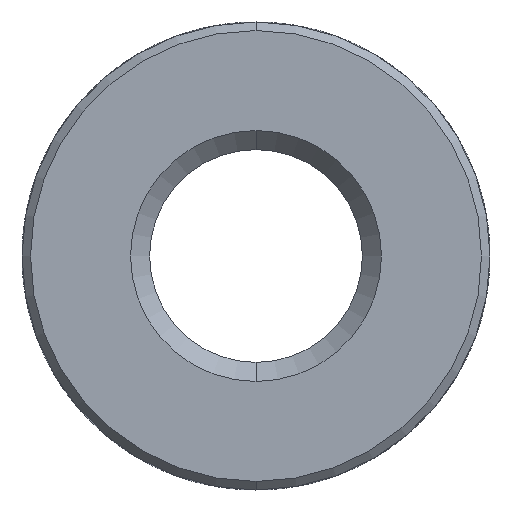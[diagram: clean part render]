
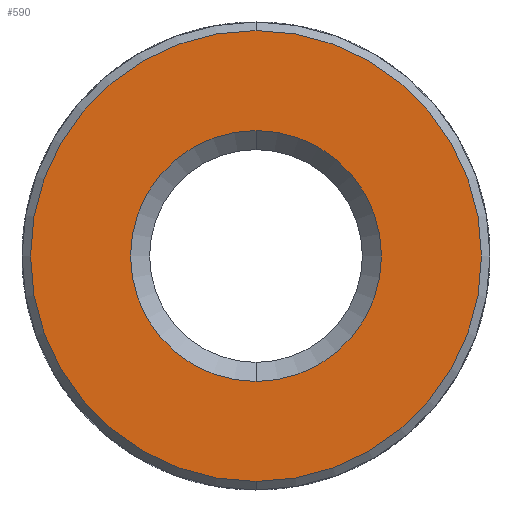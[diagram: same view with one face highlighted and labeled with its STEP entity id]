
A CAD part, front view. The second image highlights one B-rep face of the part: STEP entity #590.
In plain terms, the highlighted planar face has unit normal (0, -1, 0).
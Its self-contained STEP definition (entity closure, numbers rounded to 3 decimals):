
#122 = CARTESIAN_POINT ( 'NONE',  ( 0., -7.3, -1.475 ) ) ;
#195 = EDGE_LOOP ( 'NONE', ( #2016, #533 ) ) ;
#520 = ORIENTED_EDGE ( 'NONE', *, *, #1628, .T. ) ;
#533 = ORIENTED_EDGE ( 'NONE', *, *, #534, .T. ) ;
#534 = EDGE_CURVE ( 'NONE', #2865, #1251, #1724, .T. ) ;
#590 = ADVANCED_FACE ( 'NONE', ( #1482, #652 ), #2759, .T. ) ;
#641 = AXIS2_PLACEMENT_3D ( 'NONE', #1128, #3299, #786 ) ;
#652 = FACE_BOUND ( 'NONE', #2608, .T. ) ;
#702 = AXIS2_PLACEMENT_3D ( 'NONE', #1993, #2305, #1407 ) ;
#772 = CIRCLE ( 'NONE', #641, 2.65 ) ;
#786 = DIRECTION ( 'NONE',  ( 0., 0., -1. ) ) ;
#1015 = ORIENTED_EDGE ( 'NONE', *, *, #3546, .T. ) ;
#1055 = CARTESIAN_POINT ( 'NONE',  ( 0., -7.3, -2.65 ) ) ;
#1116 = VERTEX_POINT ( 'NONE', #122 ) ;
#1128 = CARTESIAN_POINT ( 'NONE',  ( 0., -7.3, 0. ) ) ;
#1178 = DIRECTION ( 'NONE',  ( 0., -1., 0. ) ) ;
#1186 = DIRECTION ( 'NONE',  ( 0., -1., 0. ) ) ;
#1251 = VERTEX_POINT ( 'NONE', #1762 ) ;
#1407 = DIRECTION ( 'NONE',  ( 0., 0., -1. ) ) ;
#1482 = FACE_OUTER_BOUND ( 'NONE', #195, .T. ) ;
#1546 = DIRECTION ( 'NONE',  ( 0., 0., -1. ) ) ;
#1628 = EDGE_CURVE ( 'NONE', #1116, #2236, #3685, .T. ) ;
#1724 = CIRCLE ( 'NONE', #2595, 2.65 ) ;
#1762 = CARTESIAN_POINT ( 'NONE',  ( 0., -7.3, 2.65 ) ) ;
#1789 = DIRECTION ( 'NONE',  ( 0., 0., -1. ) ) ;
#1993 = CARTESIAN_POINT ( 'NONE',  ( 0., -7.3, 0. ) ) ;
#2016 = ORIENTED_EDGE ( 'NONE', *, *, #3052, .T. ) ;
#2139 = AXIS2_PLACEMENT_3D ( 'NONE', #3679, #1186, #2149 ) ;
#2149 = DIRECTION ( 'NONE',  ( 0., 0., -1. ) ) ;
#2236 = VERTEX_POINT ( 'NONE', #2715 ) ;
#2305 = DIRECTION ( 'NONE',  ( 0., 1., 0. ) ) ;
#2595 = AXIS2_PLACEMENT_3D ( 'NONE', #3655, #1178, #1789 ) ;
#2608 = EDGE_LOOP ( 'NONE', ( #520, #1015 ) ) ;
#2715 = CARTESIAN_POINT ( 'NONE',  ( 0., -7.3, 1.475 ) ) ;
#2759 = PLANE ( 'NONE',  #2139 ) ;
#2793 = DIRECTION ( 'NONE',  ( 0., 1., 0. ) ) ;
#2865 = VERTEX_POINT ( 'NONE', #1055 ) ;
#3052 = EDGE_CURVE ( 'NONE', #1251, #2865, #772, .T. ) ;
#3299 = DIRECTION ( 'NONE',  ( 0., -1., 0. ) ) ;
#3324 = AXIS2_PLACEMENT_3D ( 'NONE', #3448, #2793, #1546 ) ;
#3440 = CIRCLE ( 'NONE', #3324, 1.475 ) ;
#3448 = CARTESIAN_POINT ( 'NONE',  ( 0., -7.3, 0. ) ) ;
#3546 = EDGE_CURVE ( 'NONE', #2236, #1116, #3440, .T. ) ;
#3655 = CARTESIAN_POINT ( 'NONE',  ( 0., -7.3, 0. ) ) ;
#3679 = CARTESIAN_POINT ( 'NONE',  ( 0., -7.3, 2.75 ) ) ;
#3685 = CIRCLE ( 'NONE', #702, 1.475 ) ;
